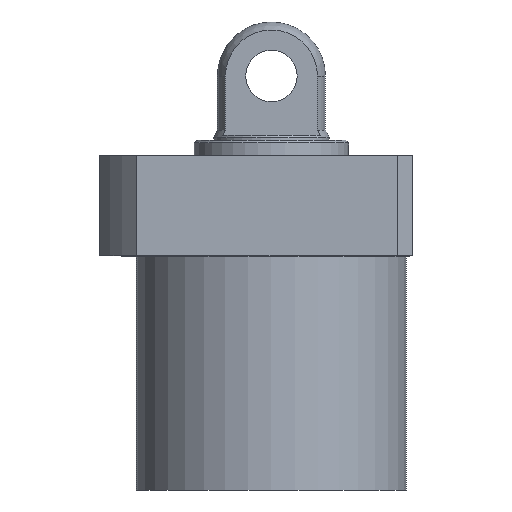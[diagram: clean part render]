
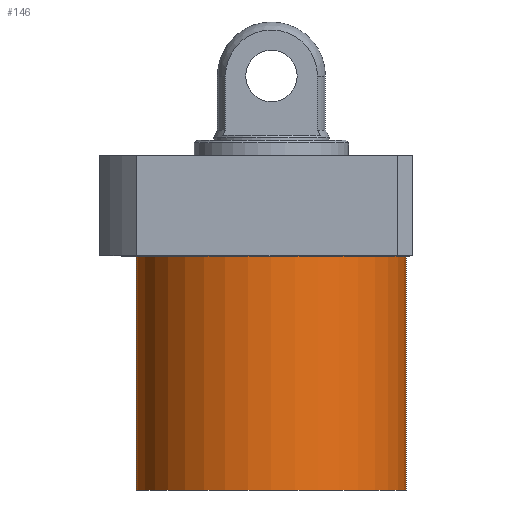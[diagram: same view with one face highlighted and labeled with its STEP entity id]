
A CAD part, front view. The second image highlights one B-rep face of the part: STEP entity #146.
In plain terms, the highlighted cylindrical face has radius 52.5 mm (diameter 105 mm), a partial arc.
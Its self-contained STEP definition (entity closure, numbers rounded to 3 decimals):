
#57 = DIRECTION ( 'NONE',  ( 0., 0., 1. ) ) ;
#146 = ADVANCED_FACE ( 'NONE', ( #283 ), #1233, .T. ) ;
#151 = CIRCLE ( 'NONE', #962, 52.5 ) ;
#197 = CARTESIAN_POINT ( 'NONE',  ( -52.5, 0., -110.5 ) ) ;
#224 = DIRECTION ( 'NONE',  ( 0., 0., 1. ) ) ;
#252 = ORIENTED_EDGE ( 'NONE', *, *, #1715, .T. ) ;
#283 = FACE_OUTER_BOUND ( 'NONE', #891, .T. ) ;
#289 = CARTESIAN_POINT ( 'NONE',  ( -52.5, 0., -19.5 ) ) ;
#334 = CARTESIAN_POINT ( 'NONE',  ( 52.5, 0., -19.5 ) ) ;
#426 = DIRECTION ( 'NONE',  ( 1., 0., 0. ) ) ;
#470 = CARTESIAN_POINT ( 'NONE',  ( 52.5, 0., -110.5 ) ) ;
#524 = CARTESIAN_POINT ( 'NONE',  ( -52.5, 0., -110.5 ) ) ;
#526 = CARTESIAN_POINT ( 'NONE',  ( 0., 0., -110.5 ) ) ;
#528 = CARTESIAN_POINT ( 'NONE',  ( 52.5, 0., -110.5 ) ) ;
#585 = DIRECTION ( 'NONE',  ( 0., 0., 1. ) ) ;
#673 = VERTEX_POINT ( 'NONE', #528 ) ;
#686 = AXIS2_PLACEMENT_3D ( 'NONE', #1418, #57, #844 ) ;
#705 = AXIS2_PLACEMENT_3D ( 'NONE', #971, #1525, #426 ) ;
#832 = LINE ( 'NONE', #470, #1095 ) ;
#844 = DIRECTION ( 'NONE',  ( 1., 0., 0. ) ) ;
#884 = VERTEX_POINT ( 'NONE', #334 ) ;
#891 = EDGE_LOOP ( 'NONE', ( #1596, #1363, #1174, #252 ) ) ;
#914 = EDGE_CURVE ( 'NONE', #1491, #1679, #1705, .T. ) ;
#962 = AXIS2_PLACEMENT_3D ( 'NONE', #526, #1466, #1336 ) ;
#971 = CARTESIAN_POINT ( 'NONE',  ( 0., 0., -19.5 ) ) ;
#1095 = VECTOR ( 'NONE', #224, 1000. ) ;
#1100 = EDGE_CURVE ( 'NONE', #673, #1491, #151, .T. ) ;
#1174 = ORIENTED_EDGE ( 'NONE', *, *, #1319, .T. ) ;
#1233 = CYLINDRICAL_SURFACE ( 'NONE', #686, 52.5 ) ;
#1235 = VECTOR ( 'NONE', #585, 1000. ) ;
#1319 = EDGE_CURVE ( 'NONE', #673, #884, #832, .T. ) ;
#1336 = DIRECTION ( 'NONE',  ( -1., 0., 0. ) ) ;
#1363 = ORIENTED_EDGE ( 'NONE', *, *, #1100, .F. ) ;
#1418 = CARTESIAN_POINT ( 'NONE',  ( 0., 0., -110.5 ) ) ;
#1466 = DIRECTION ( 'NONE',  ( 0., 0., -1. ) ) ;
#1491 = VERTEX_POINT ( 'NONE', #524 ) ;
#1525 = DIRECTION ( 'NONE',  ( 0., 0., -1. ) ) ;
#1530 = CIRCLE ( 'NONE', #705, 52.5 ) ;
#1596 = ORIENTED_EDGE ( 'NONE', *, *, #914, .F. ) ;
#1679 = VERTEX_POINT ( 'NONE', #289 ) ;
#1705 = LINE ( 'NONE', #197, #1235 ) ;
#1715 = EDGE_CURVE ( 'NONE', #884, #1679, #1530, .T. ) ;
